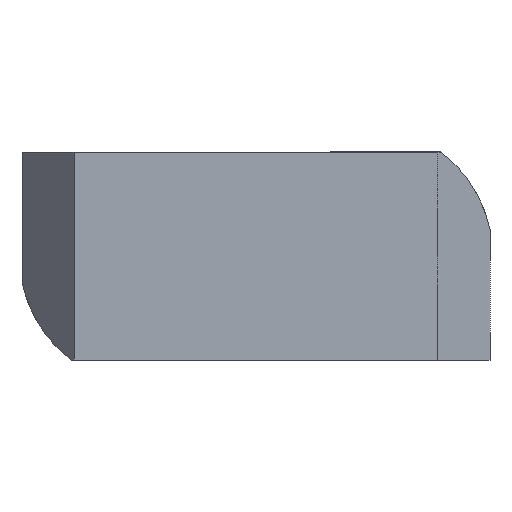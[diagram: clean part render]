
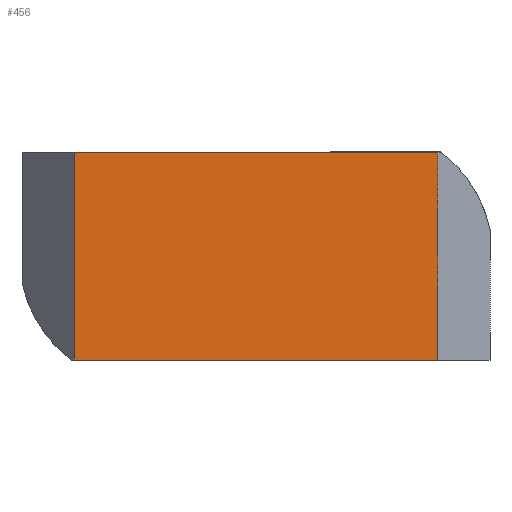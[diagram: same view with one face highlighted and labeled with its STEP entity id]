
A CAD part, front view. The second image highlights one B-rep face of the part: STEP entity #456.
In plain terms, the highlighted planar face has unit normal (0, -1, 0).
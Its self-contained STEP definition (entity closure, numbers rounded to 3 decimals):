
#165=CARTESIAN_POINT('',(-1.226,-13.207,8.5));
#166=VERTEX_POINT('',#165);
#173=CARTESIAN_POINT('',(-1.226,-13.207,0.5));
#174=VERTEX_POINT('',#173);
#175=CARTESIAN_POINT('',(-1.226,-13.207,0.5));
#176=DIRECTION('',(0.0,0.0,1.0));
#177=VECTOR('',#176,8.);
#178=LINE('',#175,#177);
#179=EDGE_CURVE('',#174,#166,#178,.T.);
#276=CARTESIAN_POINT('',(-15.226,-13.207,0.5));
#277=VERTEX_POINT('',#276);
#278=CARTESIAN_POINT('',(-15.226,-13.207,0.5));
#279=DIRECTION('',(1.0,0.0,0.0));
#280=VECTOR('',#279,14.);
#281=LINE('',#278,#280);
#282=EDGE_CURVE('',#277,#174,#281,.T.);
#346=CARTESIAN_POINT('',(-15.226,-13.207,8.5));
#347=VERTEX_POINT('',#346);
#354=CARTESIAN_POINT('',(-1.226,-13.207,8.5));
#355=DIRECTION('',(-1.0,0.0,0.0));
#356=VECTOR('',#355,14.);
#357=LINE('',#354,#356);
#358=EDGE_CURVE('',#166,#347,#357,.T.);
#434=CARTESIAN_POINT('',(-15.226,-13.207,0.5));
#435=DIRECTION('',(0.0,0.0,1.0));
#436=VECTOR('',#435,8.0);
#437=LINE('',#434,#436);
#438=EDGE_CURVE('',#277,#347,#437,.T.);
#445=CARTESIAN_POINT('',(-1.226,-13.207,0.0));
#446=DIRECTION('',(0.0,-1.0,0.0));
#447=DIRECTION('',(0.0,0.0,-1.0));
#448=AXIS2_PLACEMENT_3D('',#445,#446,#447);
#449=PLANE('',#448);
#450=ORIENTED_EDGE('',*,*,#282,.T.);
#451=ORIENTED_EDGE('',*,*,#179,.T.);
#452=ORIENTED_EDGE('',*,*,#358,.T.);
#453=ORIENTED_EDGE('',*,*,#438,.F.);
#454=EDGE_LOOP('',(#450,#451,#452,#453));
#455=FACE_OUTER_BOUND('',#454,.T.);
#456=ADVANCED_FACE('',(#455),#449,.T.);
